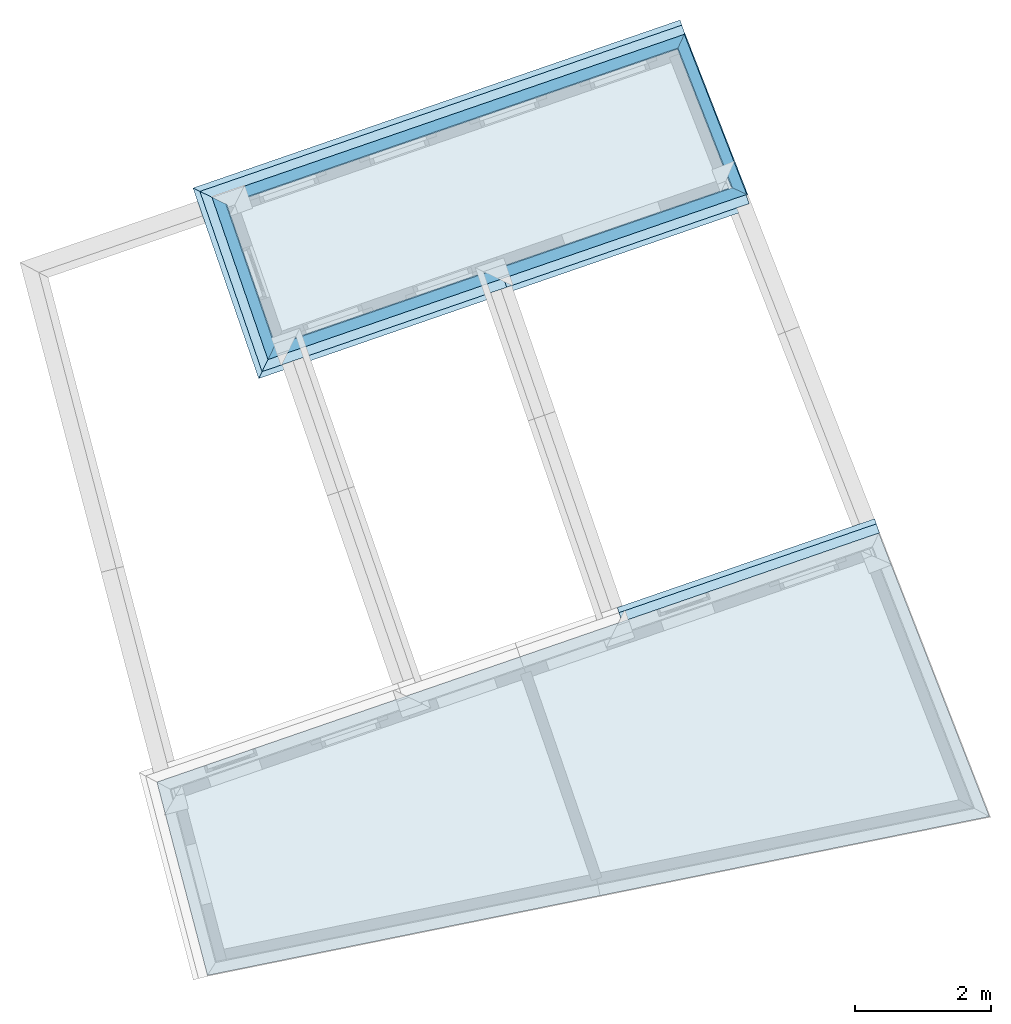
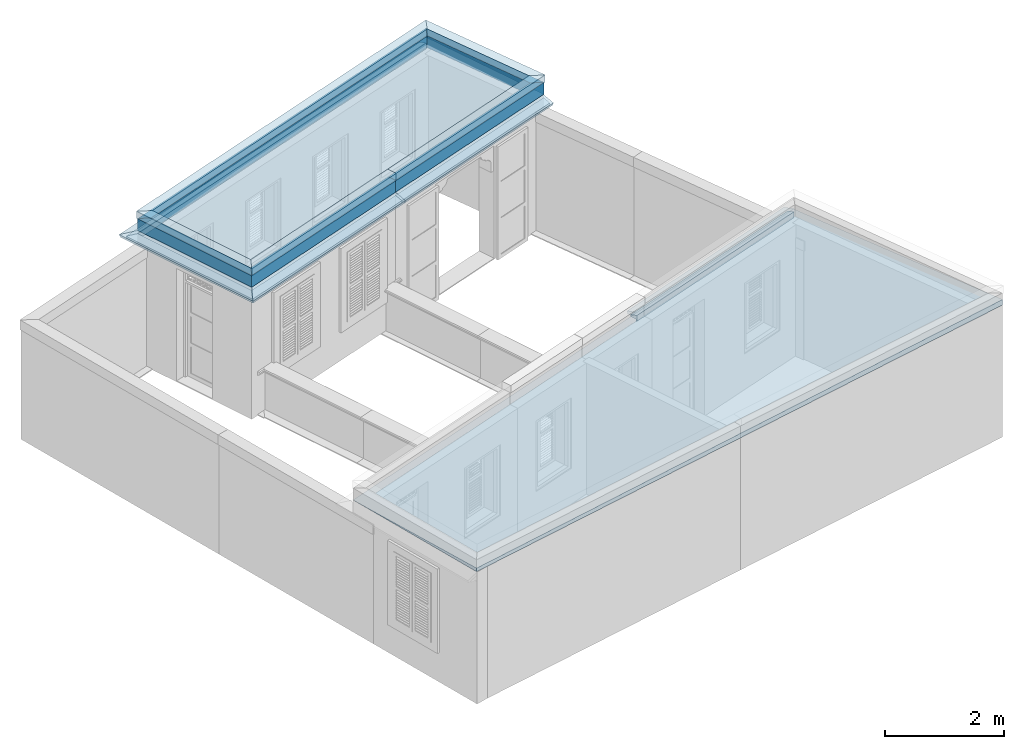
# One storey, part 16 of 16: 21 roofs.
"""IFC4 building model written with IfcOpenShell, lengths in metres."""

from ifc_helpers import new_model, si_unit, frame, origin, origin_with_axes, place, context, subcontext, project, spatial, polyline, outline, extrude, boolean, clip, halfspace, faceted_brep, material_profile, profile_set, profile_usage, type_object, element, save


model = new_model("IFC4")

# Units and contexts
model_context = context("Model", 3, world=origin_with_axes())
body_context = subcontext(model_context, "Body", "Model", "MODEL_VIEW")
ifc_project = project(units=[si_unit("PLANEANGLEUNIT", "RADIAN"), si_unit("MASSUNIT", "GRAM", prefix="KILO"), si_unit("FORCEUNIT", "NEWTON", prefix="KILO"), si_unit("LENGTHUNIT", "METRE"), si_unit("AREAUNIT", "SQUARE_METRE"), si_unit("VOLUMEUNIT", "CUBIC_METRE")], contexts=[model_context, model_context])

# Site, building, storey
site_placement = place(None, origin_with_axes())
site = spatial("IfcSite", under=ifc_project, at=site_placement, Name="Site plot-8", CompositionType="ELEMENT")
building_placement = place(None, origin_with_axes())
building = spatial("IfcBuilding", under=site, at=building_placement, Name="Building plot-8", CompositionType="ELEMENT")
storey_placement = place(None, frame((0.0, 0.0, 3.0), z_axis=(0.0, 0.0, 1.0), x_axis=(1.0, 0.0, 0.0)))
storey = spatial("IfcBuildingStorey", under=building, at=storey_placement, Name="plot-8 1", CompositionType="ELEMENT", Elevation=3.0)

# Roofs
ifc_material_profile_1 = material_profile(None, outline(polyline([(0.25, 0.0), (0.25, 0.245), (0.09, 0.245), (0.09, 0.0), (0.25, 0.0)])))
ifc_profile_set_1 = profile_set([ifc_material_profile_1])
ifc_profile_usage_1 = profile_usage(ifc_profile_set_1)
roof_type_1 = type_object("IfcRoofType", Name="roofline_0", PredefinedType="FREEFORM", material=ifc_profile_set_1)
roof_1_placement = place(storey_placement, frame((-4.07891358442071, 23.1591319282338, 2.7), z_axis=(-0.945331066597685, -0.326112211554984, 0.0), x_axis=(0.326112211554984, -0.945331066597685, 0.0)))
element("IfcRoof", 1, at=roof_1_placement, inside=storey, type_object=roof_type_1, material=ifc_profile_usage_1, Name="roofline_0", context=body_context, shape_type="Clipping", body=[
    clip(clip(extrude(outline(polyline([(0.25, 0.0), (0.25, 0.245), (0.09, 0.245), (0.09, 0.0), (0.25, 0.0)])), origin_with_axes(), (0.0, 0.0, 1.0), 5.53163075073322), halfspace(frame((0.0, 0.0, 4.53163075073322), z_axis=(-4.50212443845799e-15, 0.0, -1.0), x_axis=(0.0, 1.0, 0.0)), True)), halfspace(frame((0.0, 0.0, 1.0), z_axis=(-0.720989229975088, 0.0, -0.69294626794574), x_axis=(0.0, 1.0, 0.0)), False)),
])
ifc_profile_usage_2 = profile_usage(ifc_profile_set_1)
roof_2_placement = place(storey_placement, frame((-6.12613060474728, 25.658424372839, 2.7), z_axis=(0.363339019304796, -0.931656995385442, 0.0), x_axis=(0.931656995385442, 0.363339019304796, 0.0)))
element("IfcRoof", 2, at=roof_2_placement, inside=storey, type_object=roof_type_1, material=ifc_profile_usage_2, Name="roofline_0", context=body_context, shape_type="Clipping", body=[
    clip(clip(extrude(outline(polyline([(0.25, 0.0), (0.25, 0.245), (0.09, 0.245), (0.09, 0.0), (0.25, 0.0)])), origin_with_axes(), (0.0, 0.0, 1.0), 4.03266617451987), halfspace(frame((0.0, 0.0, 3.03266617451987), z_axis=(0.720989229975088, 0.0, -0.69294626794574), x_axis=(0.0, 1.0, 0.0)), True)), halfspace(frame((0.0, 0.0, 1.0), z_axis=(-0.692946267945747, 0.0, -0.720989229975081), x_axis=(0.0, 1.0, 0.0)), False)),
])
ifc_profile_usage_3 = profile_usage(ifc_profile_set_1)
roof_3_placement = place(storey_placement, frame((-13.2083426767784, 22.1582649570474, 2.7), z_axis=(0.945331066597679, 0.326112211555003, 0.0), x_axis=(-0.326112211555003, 0.945331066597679, 0.0)))
element("IfcRoof", 3, at=roof_3_placement, inside=storey, type_object=roof_type_1, material=ifc_profile_usage_3, Name="roofline_0", context=body_context, shape_type="Clipping", body=[
    clip(clip(extrude(outline(polyline([(0.25, 0.0), (0.25, 0.245), (0.09, 0.245), (0.09, 0.0), (0.25, 0.0)])), origin_with_axes(), (0.0, 0.0, 1.0), 8.87613075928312), halfspace(frame((0.0, 0.0, 7.87613075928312), z_axis=(0.692946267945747, 0.0, -0.720989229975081), x_axis=(0.0, 1.0, 0.0)), True)), halfspace(frame((0.0, 0.0, 1.0), z_axis=(-0.707106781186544, 0.0, -0.707106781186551), x_axis=(0.0, 1.0, 0.0)), False)),
])
ifc_profile_usage_4 = profile_usage(ifc_profile_set_1)
roof_4_placement = place(storey_placement, frame((-11.2745434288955, 19.6190147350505, 2.7), z_axis=(-0.326112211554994, 0.945331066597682, 0.0), x_axis=(-0.945331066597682, -0.326112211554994, 0.0)))
element("IfcRoof", 4, at=roof_4_placement, inside=storey, type_object=roof_type_1, material=ifc_profile_usage_4, Name="roofline_0", context=body_context, shape_type="Clipping", body=[
    clip(clip(extrude(outline(polyline([(0.25, 0.0), (0.25, 0.245), (0.09, 0.245), (0.09, 0.0), (0.25, 0.0)])), origin_with_axes(), (0.0, 0.0, 1.0), 4.03106767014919), halfspace(frame((0.0, 0.0, 3.03106767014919), z_axis=(0.707106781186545, 0.0, -0.70710678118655), x_axis=(0.0, 1.0, 0.0)), True)), halfspace(frame((0.0, 0.0, 1.0), z_axis=(-0.707106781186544, 0.0, -0.707106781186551), x_axis=(0.0, 1.0, 0.0)), False)),
])
ifc_profile_usage_5 = profile_usage(ifc_profile_set_1)
roof_5_placement = place(storey_placement, frame((-7.41747384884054, 22.0074240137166, 2.7), z_axis=(-0.945331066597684, -0.326112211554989, 0.0), x_axis=(0.326112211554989, -0.945331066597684, 0.0)))
element("IfcRoof", 5, at=roof_5_placement, inside=storey, type_object=roof_type_1, material=ifc_profile_usage_5, Name="roofline_0", context=body_context, shape_type="Clipping", body=[
    clip(clip(extrude(outline(polyline([(0.25, 0.0), (0.25, 0.245), (0.09, 0.245), (0.09, 0.0), (0.25, 0.0)])), origin_with_axes(), (0.0, 0.0, 1.0), 5.4250971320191), halfspace(frame((0.0, 0.0, 4.4250971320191), z_axis=(0.707106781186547, 0.0, -0.707106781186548), x_axis=(0.0, 1.0, 0.0)), True)), halfspace(frame((0.0, 0.0, 1.0), z_axis=(3.82856869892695e-16, 0.0, -1.0), x_axis=(0.0, 1.0, 0.0)), False)),
])
ifc_material_profile_2 = material_profile(None, outline(polyline([(0.265, 0.245), (0.265, 0.395), (0.075, 0.395), (0.075, 0.245), (0.265, 0.245)])))
ifc_profile_set_2 = profile_set([ifc_material_profile_2])
ifc_profile_usage_6 = profile_usage(ifc_profile_set_2)
roof_type_2 = type_object("IfcRoofType", Name="roofline_1", PredefinedType="FREEFORM", material=ifc_profile_set_2)
roof_6_placement = place(storey_placement, frame((-4.07891358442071, 23.1591319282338, 2.7), z_axis=(-0.945331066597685, -0.326112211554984, 0.0), x_axis=(0.326112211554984, -0.945331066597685, 0.0)))
element("IfcRoof", 6, at=roof_6_placement, inside=storey, type_object=roof_type_2, material=ifc_profile_usage_6, Name="roofline_1", context=body_context, shape_type="Clipping", body=[
    clip(clip(extrude(outline(polyline([(0.265, 0.245), (0.265, 0.395), (0.075, 0.395), (0.075, 0.245), (0.265, 0.245)])), origin_with_axes(), (0.0, 0.0, 1.0), 5.53163075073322), halfspace(frame((0.0, 0.0, 4.53163075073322), z_axis=(-4.50212443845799e-15, 0.0, -1.0), x_axis=(0.0, 1.0, 0.0)), True)), halfspace(frame((0.0, 0.0, 1.0), z_axis=(-0.720989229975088, 0.0, -0.69294626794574), x_axis=(0.0, 1.0, 0.0)), False)),
])
ifc_profile_usage_7 = profile_usage(ifc_profile_set_2)
roof_7_placement = place(storey_placement, frame((-6.12613060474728, 25.658424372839, 2.7), z_axis=(0.363339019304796, -0.931656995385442, 0.0), x_axis=(0.931656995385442, 0.363339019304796, 0.0)))
element("IfcRoof", 7, at=roof_7_placement, inside=storey, type_object=roof_type_2, material=ifc_profile_usage_7, Name="roofline_1", context=body_context, shape_type="Clipping", body=[
    clip(clip(extrude(outline(polyline([(0.265, 0.245), (0.265, 0.395), (0.075, 0.395), (0.075, 0.245), (0.265, 0.245)])), origin_with_axes(), (0.0, 0.0, 1.0), 4.03266617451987), halfspace(frame((0.0, 0.0, 3.03266617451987), z_axis=(0.720989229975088, 0.0, -0.69294626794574), x_axis=(0.0, 1.0, 0.0)), True)), halfspace(frame((0.0, 0.0, 1.0), z_axis=(-0.692946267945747, 0.0, -0.720989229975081), x_axis=(0.0, 1.0, 0.0)), False)),
])
ifc_profile_usage_8 = profile_usage(ifc_profile_set_2)
roof_8_placement = place(storey_placement, frame((-13.2083426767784, 22.1582649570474, 2.7), z_axis=(0.945331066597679, 0.326112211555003, 0.0), x_axis=(-0.326112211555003, 0.945331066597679, 0.0)))
element("IfcRoof", 8, at=roof_8_placement, inside=storey, type_object=roof_type_2, material=ifc_profile_usage_8, Name="roofline_1", context=body_context, shape_type="Clipping", body=[
    clip(clip(extrude(outline(polyline([(0.265, 0.245), (0.265, 0.395), (0.075, 0.395), (0.075, 0.245), (0.265, 0.245)])), origin_with_axes(), (0.0, 0.0, 1.0), 8.87613075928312), halfspace(frame((0.0, 0.0, 7.87613075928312), z_axis=(0.692946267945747, 0.0, -0.720989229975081), x_axis=(0.0, 1.0, 0.0)), True)), halfspace(frame((0.0, 0.0, 1.0), z_axis=(-0.707106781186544, 0.0, -0.707106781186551), x_axis=(0.0, 1.0, 0.0)), False)),
])
ifc_profile_usage_9 = profile_usage(ifc_profile_set_2)
roof_9_placement = place(storey_placement, frame((-11.2745434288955, 19.6190147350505, 2.7), z_axis=(-0.326112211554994, 0.945331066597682, 0.0), x_axis=(-0.945331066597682, -0.326112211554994, 0.0)))
element("IfcRoof", 9, at=roof_9_placement, inside=storey, type_object=roof_type_2, material=ifc_profile_usage_9, Name="roofline_1", context=body_context, shape_type="Clipping", body=[
    clip(clip(extrude(outline(polyline([(0.265, 0.245), (0.265, 0.395), (0.075, 0.395), (0.075, 0.245), (0.265, 0.245)])), origin_with_axes(), (0.0, 0.0, 1.0), 4.03106767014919), halfspace(frame((0.0, 0.0, 3.03106767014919), z_axis=(0.707106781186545, 0.0, -0.70710678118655), x_axis=(0.0, 1.0, 0.0)), True)), halfspace(frame((0.0, 0.0, 1.0), z_axis=(-0.707106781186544, 0.0, -0.707106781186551), x_axis=(0.0, 1.0, 0.0)), False)),
])
ifc_profile_usage_10 = profile_usage(ifc_profile_set_2)
roof_10_placement = place(storey_placement, frame((-7.41747384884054, 22.0074240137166, 2.7), z_axis=(-0.945331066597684, -0.326112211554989, 0.0), x_axis=(0.326112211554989, -0.945331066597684, 0.0)))
element("IfcRoof", 10, at=roof_10_placement, inside=storey, type_object=roof_type_2, material=ifc_profile_usage_10, Name="roofline_1", context=body_context, shape_type="Clipping", body=[
    clip(clip(extrude(outline(polyline([(0.265, 0.245), (0.265, 0.395), (0.075, 0.395), (0.075, 0.245), (0.265, 0.245)])), origin_with_axes(), (0.0, 0.0, 1.0), 5.4250971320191), halfspace(frame((0.0, 0.0, 4.4250971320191), z_axis=(0.707106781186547, 0.0, -0.707106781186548), x_axis=(0.0, 1.0, 0.0)), True)), halfspace(frame((0.0, 0.0, 1.0), z_axis=(3.82856869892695e-16, 0.0, -1.0), x_axis=(0.0, 1.0, 0.0)), False)),
])
ifc_material_profile_3 = material_profile(None, outline(polyline([(0.25, -0.19), (0.275, -0.19), (0.275, -0.15), (0.39, -0.15), (0.39, -0.107509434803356), (0.25, -0.0629639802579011), (0.25, -0.19)])))
ifc_profile_set_3 = profile_set([ifc_material_profile_3])
ifc_profile_usage_11 = profile_usage(ifc_profile_set_3)
roof_type_3 = type_object("IfcRoofType", Name="eaves_0", PredefinedType="FREEFORM", material=ifc_profile_set_3)
roof_11_placement = place(storey_placement, frame((-13.2083426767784, 22.1582649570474, 2.7), z_axis=(0.945331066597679, 0.326112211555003, 0.0), x_axis=(-0.326112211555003, 0.945331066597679, 0.0)))
element("IfcRoof", 11, at=roof_11_placement, inside=storey, type_object=roof_type_3, material=ifc_profile_usage_11, Name="eaves_0", context=body_context, shape_type="Clipping", body=[
    clip(clip(extrude(outline(polyline([(0.25, -0.19), (0.275, -0.19), (0.275, -0.15), (0.39, -0.15), (0.39, -0.107509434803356), (0.25, -0.0629639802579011), (0.25, -0.19)])), origin_with_axes(), (0.0, 0.0, 1.0), 9.12613075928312), halfspace(frame((0.0, 0.0, 8.12613075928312), z_axis=(-5.0532154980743e-16, 0.0, -1.0), x_axis=(0.0, 1.0, 0.0)), True)), halfspace(frame((0.0, 0.0, 1.0), z_axis=(-0.707106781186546, 0.0, -0.707106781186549), x_axis=(0.0, 1.0, 0.0)), False)),
])
ifc_profile_usage_12 = profile_usage(ifc_profile_set_3)
roof_12_placement = place(storey_placement, frame((-11.2745434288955, 19.6190147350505, 2.7), z_axis=(-0.326112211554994, 0.945331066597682, 0.0), x_axis=(-0.945331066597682, -0.326112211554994, 0.0)))
element("IfcRoof", 12, at=roof_12_placement, inside=storey, type_object=roof_type_3, material=ifc_profile_usage_12, Name="eaves_0", context=body_context, shape_type="Clipping", body=[
    clip(clip(extrude(outline(polyline([(0.25, -0.19), (0.275, -0.19), (0.275, -0.15), (0.39, -0.15), (0.39, -0.107509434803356), (0.25, -0.0629639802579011), (0.25, -0.19)])), origin_with_axes(), (0.0, 0.0, 1.0), 4.03106767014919), halfspace(frame((0.0, 0.0, 3.03106767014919), z_axis=(0.707106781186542, 0.0, -0.707106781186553), x_axis=(0.0, 1.0, 0.0)), True)), halfspace(frame((0.0, 0.0, 1.0), z_axis=(-0.707106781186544, 0.0, -0.707106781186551), x_axis=(0.0, 1.0, 0.0)), False)),
])
ifc_profile_usage_13 = profile_usage(ifc_profile_set_3)
roof_13_placement = place(storey_placement, frame((-7.41747384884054, 22.0074240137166, 2.7), z_axis=(-0.945331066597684, -0.326112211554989, 0.0), x_axis=(0.326112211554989, -0.945331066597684, 0.0)))
element("IfcRoof", 13, at=roof_13_placement, inside=storey, type_object=roof_type_3, material=ifc_profile_usage_13, Name="eaves_0", context=body_context, shape_type="Clipping", body=[
    clip(clip(extrude(outline(polyline([(0.25, -0.19), (0.275, -0.19), (0.275, -0.15), (0.39, -0.15), (0.39, -0.107509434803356), (0.25, -0.0629639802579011), (0.25, -0.19)])), origin_with_axes(), (0.0, 0.0, 1.0), 5.4250971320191), halfspace(frame((0.0, 0.0, 4.4250971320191), z_axis=(0.707106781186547, 0.0, -0.707106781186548), x_axis=(0.0, 1.0, 0.0)), True)), halfspace(frame((0.0, 0.0, 1.0), z_axis=(3.82856869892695e-16, 0.0, -1.0), x_axis=(0.0, 1.0, 0.0)), False)),
])
ifc_profile_usage_14 = profile_usage(ifc_profile_set_3)
roof_14_placement = place(storey_placement, frame((-3.84258081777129, 23.2406599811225, 2.7), z_axis=(-0.945331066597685, -0.326112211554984, 0.0), x_axis=(0.326112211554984, -0.945331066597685, 0.0)))
element("IfcRoof", 14, at=roof_14_placement, inside=storey, type_object=roof_type_3, material=ifc_profile_usage_14, Name="eaves_0", context=body_context, shape_type="Clipping", body=[
    clip(clip(extrude(outline(polyline([(0.25, -0.19), (0.275, -0.19), (0.275, -0.15), (0.39, -0.15), (0.39, -0.107509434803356), (0.25, -0.0629639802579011), (0.25, -0.19)])), origin_with_axes(), (0.0, 0.0, 1.0), 5.78163075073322), halfspace(frame((0.0, 0.0, 4.78163075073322), z_axis=(-4.50212443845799e-15, 0.0, -1.0), x_axis=(0.0, 1.0, 0.0)), True)), halfspace(frame((0.0, 0.0, 1.0), z_axis=(-2.83276944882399e-16, 0.0, -1.0), x_axis=(0.0, 1.0, 0.0)), False)),
])
ifc_material_profile_4 = material_profile(None, outline(polyline([(0.25, -0.0629639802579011), (0.451807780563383, -0.127175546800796), (0.47, -0.07), (0.25, 0.0), (0.25, -0.0629639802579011)])))
ifc_profile_set_4 = profile_set([ifc_material_profile_4])
ifc_profile_usage_15 = profile_usage(ifc_profile_set_4)
roof_type_4 = type_object("IfcRoofType", Name="eaves_1", PredefinedType="FREEFORM", material=ifc_profile_set_4)
roof_15_placement = place(storey_placement, frame((-13.2083426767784, 22.1582649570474, 2.7), z_axis=(0.945331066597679, 0.326112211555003, 0.0), x_axis=(-0.326112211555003, 0.945331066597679, 0.0)))
element("IfcRoof", 15, at=roof_15_placement, inside=storey, type_object=roof_type_4, material=ifc_profile_usage_15, Name="eaves_1", context=body_context, shape_type="Clipping", body=[
    clip(clip(extrude(outline(polyline([(0.25, -0.0629639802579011), (0.451807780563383, -0.127175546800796), (0.47, -0.07), (0.25, 0.0), (0.25, -0.0629639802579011)])), origin_with_axes(), (0.0, 0.0, 1.0), 9.12613075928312), halfspace(frame((0.0, 0.0, 8.12613075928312), z_axis=(-5.0532154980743e-16, 0.0, -1.0), x_axis=(0.0, 1.0, 0.0)), True)), halfspace(frame((0.0, 0.0, 1.0), z_axis=(-0.707106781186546, 0.0, -0.707106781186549), x_axis=(0.0, 1.0, 0.0)), False)),
])
ifc_profile_usage_16 = profile_usage(ifc_profile_set_4)
roof_16_placement = place(storey_placement, frame((-11.2745434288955, 19.6190147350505, 2.7), z_axis=(-0.326112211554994, 0.945331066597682, 0.0), x_axis=(-0.945331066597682, -0.326112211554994, 0.0)))
element("IfcRoof", 16, at=roof_16_placement, inside=storey, type_object=roof_type_4, material=ifc_profile_usage_16, Name="eaves_1", context=body_context, shape_type="Clipping", body=[
    clip(clip(extrude(outline(polyline([(0.25, -0.0629639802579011), (0.451807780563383, -0.127175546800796), (0.47, -0.07), (0.25, 0.0), (0.25, -0.0629639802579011)])), origin_with_axes(), (0.0, 0.0, 1.0), 4.03106767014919), halfspace(frame((0.0, 0.0, 3.03106767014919), z_axis=(0.707106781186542, 0.0, -0.707106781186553), x_axis=(0.0, 1.0, 0.0)), True)), halfspace(frame((0.0, 0.0, 1.0), z_axis=(-0.707106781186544, 0.0, -0.707106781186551), x_axis=(0.0, 1.0, 0.0)), False)),
])
ifc_profile_usage_17 = profile_usage(ifc_profile_set_4)
roof_17_placement = place(storey_placement, frame((-7.41747384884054, 22.0074240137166, 2.7), z_axis=(-0.945331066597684, -0.326112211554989, 0.0), x_axis=(0.326112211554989, -0.945331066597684, 0.0)))
element("IfcRoof", 17, at=roof_17_placement, inside=storey, type_object=roof_type_4, material=ifc_profile_usage_17, Name="eaves_1", context=body_context, shape_type="Clipping", body=[
    clip(clip(extrude(outline(polyline([(0.25, -0.0629639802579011), (0.451807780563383, -0.127175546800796), (0.47, -0.07), (0.25, 0.0), (0.25, -0.0629639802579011)])), origin_with_axes(), (0.0, 0.0, 1.0), 5.4250971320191), halfspace(frame((0.0, 0.0, 4.4250971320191), z_axis=(0.707106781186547, 0.0, -0.707106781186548), x_axis=(0.0, 1.0, 0.0)), True)), halfspace(frame((0.0, 0.0, 1.0), z_axis=(3.82856869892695e-16, 0.0, -1.0), x_axis=(0.0, 1.0, 0.0)), False)),
])
ifc_profile_usage_18 = profile_usage(ifc_profile_set_4)
roof_18_placement = place(storey_placement, frame((-3.84258081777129, 23.2406599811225, 2.7), z_axis=(-0.945331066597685, -0.326112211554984, 0.0), x_axis=(0.326112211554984, -0.945331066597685, 0.0)))
element("IfcRoof", 18, at=roof_18_placement, inside=storey, type_object=roof_type_4, material=ifc_profile_usage_18, Name="eaves_1", context=body_context, shape_type="Clipping", body=[
    clip(clip(extrude(outline(polyline([(0.25, -0.0629639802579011), (0.451807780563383, -0.127175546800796), (0.47, -0.07), (0.25, 0.0), (0.25, -0.0629639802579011)])), origin_with_axes(), (0.0, 0.0, 1.0), 5.78163075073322), halfspace(frame((0.0, 0.0, 4.78163075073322), z_axis=(-4.50212443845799e-15, 0.0, -1.0), x_axis=(0.0, 1.0, 0.0)), True)), halfspace(frame((0.0, 0.0, 1.0), z_axis=(-2.83276944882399e-16, 0.0, -1.0), x_axis=(0.0, 1.0, 0.0)), False)),
])
ifc_material_profile_5 = material_profile(None, outline(polyline([(0.25, -0.19), (0.275, -0.19), (0.275, -0.15), (0.39, -0.15), (0.39, -0.107509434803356), (0.25, -0.0629639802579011), (0.25, -0.19)])))
ifc_profile_set_5 = profile_set([ifc_material_profile_5])
ifc_profile_usage_19 = profile_usage(ifc_profile_set_5)
roof_type_5 = type_object("IfcRoofType", Name="eaves_0", PredefinedType="FREEFORM", material=ifc_profile_set_5)
roof_19_placement = place(storey_placement, frame((-7.39884562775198, 15.8205663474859, 2.7), z_axis=(0.945331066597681, 0.326112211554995, 0.0), x_axis=(-0.326112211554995, 0.945331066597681, 0.0)))
element("IfcRoof", 19, at=roof_19_placement, inside=storey, type_object=roof_type_5, material=ifc_profile_usage_19, Name="eaves_0", context=body_context, shape_type="Clipping", body=[
    clip(clip(extrude(outline(polyline([(0.25, -0.19), (0.275, -0.19), (0.275, -0.15), (0.39, -0.15), (0.39, -0.107509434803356), (0.25, -0.0629639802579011), (0.25, -0.19)])), origin_with_axes(), (0.0, 0.0, 1.0), 6.0139579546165), halfspace(frame((0.0, 0.0, 5.0139579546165), z_axis=(-6.12323399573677e-17, 0.0, -1.0), x_axis=(0.0, 1.0, 0.0)), True)), halfspace(frame((0.0, 0.0, 1.0), z_axis=(-6.12323399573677e-17, 0.0, -1.0), x_axis=(0.0, 1.0, 0.0)), False)),
])
ifc_material_profile_6 = material_profile(None, outline(polyline([(0.25, -0.0629639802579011), (0.451807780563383, -0.127175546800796), (0.47, -0.07), (0.25, 0.0), (0.25, -0.0629639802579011)])))
ifc_profile_set_6 = profile_set([ifc_material_profile_6])
ifc_profile_usage_20 = profile_usage(ifc_profile_set_6)
roof_type_6 = type_object("IfcRoofType", Name="eaves_1", PredefinedType="FREEFORM", material=ifc_profile_set_6)
roof_20_placement = place(storey_placement, frame((-7.39884562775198, 15.8205663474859, 2.7), z_axis=(0.945331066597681, 0.326112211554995, 0.0), x_axis=(-0.326112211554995, 0.945331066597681, 0.0)))
element("IfcRoof", 20, at=roof_20_placement, inside=storey, type_object=roof_type_6, material=ifc_profile_usage_20, Name="eaves_1", context=body_context, shape_type="Clipping", body=[
    clip(clip(extrude(outline(polyline([(0.25, -0.0629639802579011), (0.451807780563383, -0.127175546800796), (0.47, -0.07), (0.25, 0.0), (0.25, -0.0629639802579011)])), origin_with_axes(), (0.0, 0.0, 1.0), 6.0139579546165), halfspace(frame((0.0, 0.0, 5.0139579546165), z_axis=(-6.12323399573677e-17, 0.0, -1.0), x_axis=(0.0, 1.0, 0.0)), True)), halfspace(frame((0.0, 0.0, 1.0), z_axis=(-6.12323399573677e-17, 0.0, -1.0), x_axis=(0.0, 1.0, 0.0)), False)),
])
roof_21_placement = place(building_placement, origin())
element("IfcRoof", 21, at=roof_21_placement, inside=storey, Name="Roof", PredefinedType="FREEFORM", context=body_context, shape_type="CSG", body=[
    boolean("UNION", faceted_brep([(-2.749716, 17.688841, 5.7), (-13.391665, 14.017673, 5.7), (-12.646593, 11.168877, 5.773401), (-1.12, 13.51, 5.812046), (-1.12, 13.51, 5.7), (-12.646593, 11.168877, 5.7)], [[[0, 1, 2, 3]], [[4, 5, 1, 0]], [[3, 4, 0]], [[2, 1, 5]], [[2, 5, 4, 3]]]), faceted_brep([(-11.75546, 20.246485, 5.7), (-4.69682, 22.681514, 5.7), (-5.617179, 25.041457, 5.763277), (-10.188176, 23.464594, 5.763277), (-12.580872, 22.639182, 5.7), (-5.617179, 25.041457, 5.7)], [[[0, 1, 2, 3]], [[4, 5, 1, 0]], [[3, 4, 0]], [[2, 1, 5]], [[2, 5, 4, 3]]])),
])

save(model, "model.ifc")
